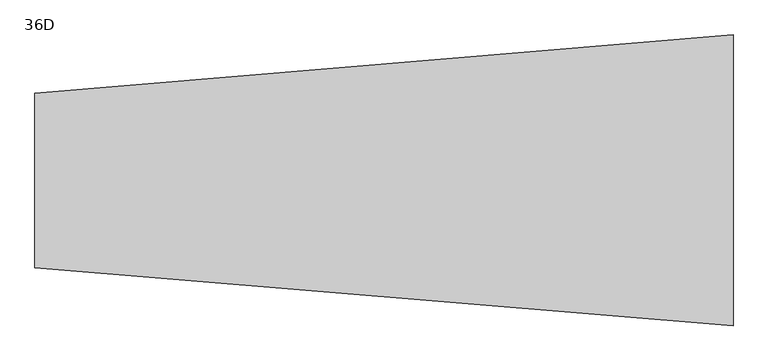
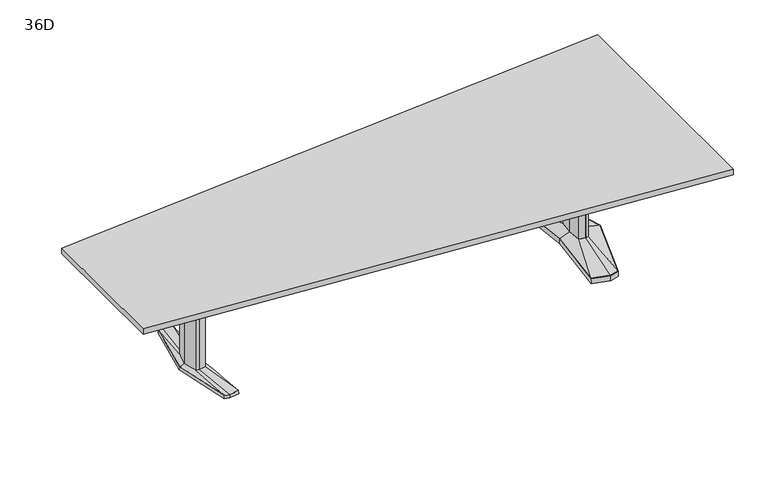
"""IFC4 building model written with IfcOpenShell, lengths in millimetres: furniture geometry, Coalesse_AM_Table_Conference_ETable2_Trapezoid_12ft_AluminiumBase : 36D."""

from ifc_helpers import new_model, si_unit, frame, origin, place, context, project, spatial, polyline, outline, extrude, faceted_brep, source, transform, mapped, element, save
from ifc_brep_helpers import plane_surface, spline_surface, advanced_brep


def furniture_36d_b59db664(model_context):
    return source(origin(), model_context, "Body", "SolidModel", [
        faceted_brep([(1210.6306835, 455.5848221, 38.1), (1101.0531277, 426.2263816, 38.1), (1142.2163717, 0.0, 38.1), (1101.0531277, -426.2263816, 38.1), (1210.6306835, -455.5848221, 38.1), (1266.7570396, -440.5478297, 38.1), (1404.0684269, 0.0, 38.1), (1266.7570396, 440.5478297, 38.1), (1210.6306754, 457.2283104, 3.175), (1268.0124472, 441.8549756, 3.175), (1405.73125, 0.0, 3.175), (1268.0124472, -441.8549756, 3.175), (1210.6306754, -457.2283104, 3.175), (1099.34375, -427.4118891, 3.175), (1140.6214856, 0.0, 3.175), (1099.34375, 427.4118891, 3.175), (1214.220115, 428.3273875, 3.175), (1109.1718228, 402.1057253, 3.175), (1117.290518, 377.985069, 3.175), (1217.8095466, 401.0699529, 3.175), (1268.3691725, 387.524361, 3.175), (1267.5631061, 414.0360954, 3.175), (1214.220115, -428.3273875, 3.175), (1267.5631061, -414.0360954, 3.175), (1268.3691725, -387.524361, 3.175), (1217.8095466, -401.0699529, 3.175), (1117.290518, -377.985069, 3.175), (1109.1718228, -402.1057253, 3.175), (1340.8153621, 0.0, 3.175), (1308.5459611, 120.4193755, 3.175), (1259.8987222, 133.471665, 3.175), (1180.0180526, 119.4176561, 3.175), (1168.8868466, 0.0, 3.175), (1180.0180526, -119.4176561, 3.175), (1259.8987222, -133.471665, 3.175), (1308.5459611, -120.4193755, 3.175), (1214.220115, 428.3273875, 0.0), (1267.5631061, 414.0360954, 0.0), (1268.3691725, 387.524361, 0.0), (1217.8095466, 401.0699529, 0.0), (1117.290518, 377.985069, 0.0), (1109.1718228, 402.1057253, 0.0), (1214.220115, -428.3273875, 0.0), (1109.1718228, -402.1057253, 0.0), (1117.290518, -377.985069, 0.0), (1217.8095466, -401.0699529, 0.0), (1268.3691725, -387.524361, 0.0), (1267.5631061, -414.0360954, 0.0), (1340.8153621, 0.0, 0.0), (1308.5459611, -120.4193755, 0.0), (1259.8987222, -133.471665, 0.0), (1180.0180526, -119.4176561, 0.0), (1168.8868466, 0.0, 0.0), (1180.0180526, 119.4176561, 0.0), (1259.8987222, 133.471665, 0.0), (1308.5459611, 120.4193755, 0.0)], [[[0, 1, 2, 3, 4, 5, 6, 7]], [[8, 9, 10, 11, 12, 13, 14, 15], [16, 17, 18, 19, 20, 21], [22, 23, 24, 25, 26, 27], [28, 29, 30, 31, 32, 33, 34, 35]], [[7, 9, 8, 0]], [[6, 10, 9, 7]], [[5, 11, 10, 6]], [[4, 12, 11, 5]], [[3, 13, 12, 4]], [[2, 14, 13, 3]], [[1, 15, 14, 2]], [[0, 8, 15, 1]], [[36, 37, 38, 39, 40, 41]], [[42, 43, 44, 45, 46, 47]], [[48, 49, 50, 51, 52, 53, 54, 55]], [[36, 16, 21, 37]], [[37, 21, 20, 38]], [[38, 20, 19, 39]], [[39, 19, 18, 40]], [[40, 18, 17, 41]], [[41, 17, 16, 36]], [[42, 22, 27, 43]], [[43, 27, 26, 44]], [[44, 26, 25, 45]], [[45, 25, 24, 46]], [[46, 24, 23, 47]], [[47, 23, 22, 42]], [[48, 28, 35, 49]], [[49, 35, 34, 50]], [[50, 34, 33, 51]], [[51, 33, 32, 52]], [[52, 32, 31, 53]], [[53, 31, 30, 54]], [[54, 30, 29, 55]], [[55, 29, 28, 48]]]),
        faceted_brep([(1301.3710836, 0.0, 698.5), (1277.4358546, 89.3188359, 698.5), (1260.5824984, 93.8406728, 698.5), (1258.1826511, 94.4845635, 698.5), (1215.255146, 86.9320037, 698.5), (1207.1520056, 0.0, 698.5), (1215.255146, -86.9320037, 698.5), (1258.1826511, -94.4845635, 698.5), (1260.5824984, -93.8406728, 698.5), (1277.4358546, -89.3188359, 698.5), (1301.3710836, 0.0, 63.5), (1277.4358546, -89.3188359, 63.5), (1260.5824984, -93.8406728, 63.5), (1258.1826511, -94.4845635, 63.5), (1215.255146, -86.9320037, 63.5), (1207.1520056, 0.0, 63.5), (1215.255146, 86.9320037, 63.5), (1258.1826511, 94.4845635, 63.5), (1260.5824984, 93.8406728, 63.5), (1277.4358546, 89.3188359, 63.5)], [[[0, 1, 2, 3, 4, 5, 6, 7, 8, 9]], [[10, 11, 12, 13, 14, 15, 16, 17, 18, 19]], [[9, 11, 10, 0]], [[8, 12, 11, 9]], [[7, 13, 12, 8]], [[6, 14, 13, 7]], [[5, 15, 14, 6]], [[4, 16, 15, 5]], [[3, 17, 16, 4]], [[2, 18, 17, 3]], [[1, 19, 18, 2]], [[0, 10, 19, 1]]]),
        advanced_brep(
        [(1258.1826511, 94.4845635, 63.5), (1215.255146, 86.9320037, 63.5), (1207.1520056, 0.0, 63.5), (1215.255146, -86.9320037, 63.5), (1258.1826511, -94.4845635, 63.5), (1277.4358546, -89.3188359, 63.5), (1301.3710836, 0.0, 63.5), (1277.4358546, 89.3188359, 63.5), (1210.6306835, 455.5848221, 38.1), (1266.7570396, 440.5478297, 38.1), (1404.0684269, 0.0, 38.1), (1266.7570396, -440.5478297, 38.1), (1210.6306835, -455.5848221, 38.1), (1101.0531277, -426.2263816, 38.1), (1142.2163717, 0.0, 38.1), (1101.0531277, 426.2263816, 38.1)],
        [
            (0, 1),
            (1, 2),
            (2, 3),
            (3, 4),
            (4, 5),
            (5, 6),
            (6, 7),
            (7, 0),
            (8, 9),
            (9, 10),
            (10, 11),
            (11, 12),
            (12, 13),
            (13, 14),
            (14, 15),
            (15, 8),
            (8, 0),
            (7, 9),
            (6, 10),
            (5, 11),
            (4, 12),
            (3, 13),
            (2, 14),
            (1, 15),
        ],
        [
            plane_surface(frame((1251.2837991, 0.0, 63.5), z_axis=(0.0, 0.0, 1.0), x_axis=(-0.25884244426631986, -0.9659195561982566, 0.0))),
            plane_surface(frame((1212.8958125, 0.0, 38.1), z_axis=(0.0, 0.0, -1.0), x_axis=(-0.25884244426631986, -0.9659195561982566, 0.0))),
            spline_surface(1, 1, [[(1210.6306835, 455.5848221, 38.1), (1266.7570396, 440.5478297, 38.1)], [(1258.1826511, 94.4845635, 63.5), (1277.4358546, 89.3188359, 63.5)]], [2, 2], [2, 2], [0.0, 1.0], [0.0, 1.0]),
            spline_surface(1, 1, [[(1266.7570396, 440.5478297, 38.1), (1404.0684269, 0.0, 38.1)], [(1277.4358546, 89.3188359, 63.5), (1301.3710836, 0.0, 63.5)]], [2, 2], [2, 2], [0.0, 1.0], [0.0, 1.0]),
            spline_surface(1, 1, [[(1404.0684269, 0.0, 38.1), (1266.7570396, -440.5478297, 38.1)], [(1301.3710836, 0.0, 63.5), (1277.4358546, -89.3188359, 63.5)]], [2, 2], [2, 2], [0.0, 1.0], [0.0, 1.0]),
            spline_surface(1, 1, [[(1266.7570396, -440.5478297, 38.1), (1210.6306835, -455.5848221, 38.1)], [(1277.4358546, -89.3188359, 63.5), (1258.1826511, -94.4845635, 63.5)]], [2, 2], [2, 2], [0.0, 1.0], [0.0, 1.0]),
            spline_surface(1, 1, [[(1210.6306835, -455.5848221, 38.1), (1101.0531277, -426.2263816, 38.1)], [(1258.1826511, -94.4845635, 63.5), (1215.255146, -86.9320037, 63.5)]], [2, 2], [2, 2], [0.0, 1.0], [0.0, 1.0]),
            spline_surface(1, 1, [[(1101.0531277, -426.2263816, 38.1), (1142.2163717, 0.0, 38.1)], [(1215.255146, -86.9320037, 63.5), (1207.1520056, 0.0, 63.5)]], [2, 2], [2, 2], [0.0, 1.0], [0.0, 1.0]),
            spline_surface(1, 1, [[(1142.2163717, 0.0, 38.1), (1101.0531277, 426.2263816, 38.1)], [(1207.1520056, 0.0, 63.5), (1215.255146, 86.9320037, 63.5)]], [2, 2], [2, 2], [0.0, 1.0], [0.0, 1.0]),
            spline_surface(1, 1, [[(1101.0531277, 426.2263816, 38.1), (1210.6306835, 455.5848221, 38.1)], [(1215.255146, 86.9320037, 63.5), (1258.1826511, 94.4845635, 63.5)]], [2, 2], [2, 2], [0.0, 1.0], [0.0, 1.0]),
        ],
        [
            (0, [[1, 2, 3, 4, 5, 6, 7, 8]]),
            (1, [[9, 10, 11, 12, 13, 14, 15, 16]]),
            (2, [[17, -8, 18, -9]]),
            (3, [[-18, -7, 19, -10]]),
            (4, [[-19, -6, 20, -11]]),
            (5, [[-20, -5, 21, -12]]),
            (6, [[-21, -4, 22, -13]]),
            (7, [[-22, -3, 23, -14]]),
            (8, [[-23, -2, 24, -15]]),
            (9, [[-24, -1, -17, -16]]),
        ],
    ),
        advanced_brep(
        [(-1222.0690971, -379.3768856, 25.4), (-1256.1982754, -94.605478, 36.5125), (-1275.4514743, -89.293702, 36.5125), (-1251.7944136, -371.5332654, 25.4), (-1158.9800038, -368.5071562, 25.4), (-1213.2708501, -87.0529327, 36.5125), (-1187.0577254, 0.3970149, 25.4), (-1205.1551707, 0.0, 36.5125), (-1158.9802502, 368.5172593, 25.4), (-1213.2708501, 87.0529327, 36.5125), (-1222.0689733, 379.3769183, 25.4), (-1256.1982754, 94.605478, 36.5125), (-1251.9722958, 371.4863276, 25.4), (-1275.4514743, 89.293702, 36.5125), (-1328.7039163, 0.0003516, 25.4), (-1299.3782751, 0.0, 36.5125), (-1185.4656242, 0.3968871, 3.175), (-1157.2875, -369.8264415, 3.175), (-1222.1400504, -381.0, 3.175), (-1253.1497317, -372.8174744, 3.175), (-1330.325, 0.0, 3.175), (-1253.3280745, 372.7704151, 3.175), (-1222.1400504, 381.0, 3.175), (-1157.2875, 369.8367279, 3.175), (-1256.8166764, 107.6121478, 3.175), (-1285.8370973, 99.6056872, 3.175), (-1312.5270585, 0.0, 3.175), (-1285.8370973, -99.6056872, 3.175), (-1256.8166764, -107.6121478, 3.175), (-1201.5252951, -97.8843184, 3.175), (-1192.3998387, 0.0, 3.175), (-1201.5252951, 97.8843184, 3.175), (-1220.6474312, 346.9152841, 3.175), (-1254.7732026, 337.9105158, 3.175), (-1255.8913109, 324.4807859, 3.175), (-1220.0788144, 333.9306305, 3.175), (-1167.4077418, 324.8641942, 3.175), (-1164.9998871, 337.3364985, 3.175), (-1220.6474312, -346.9152841, 3.175), (-1164.9998871, -337.3364985, 3.175), (-1167.4077418, -324.8641942, 3.175), (-1220.0788144, -333.9306305, 3.175), (-1255.8913109, -324.4807859, 3.175), (-1254.7732026, -337.9105158, 3.175), (-1256.8166764, 107.6121478, 0.0), (-1201.5252951, 97.8843184, 0.0), (-1192.3998387, 0.0, 0.0), (-1201.5252951, -97.8843184, 0.0), (-1256.8166764, -107.6121478, 0.0), (-1285.8370973, -99.6056872, 0.0), (-1312.5270585, 0.0, 0.0), (-1285.8370973, 99.6056872, 0.0), (-1220.6474312, 346.9152841, 0.0), (-1164.9998871, 337.3364985, 0.0), (-1167.4077418, 324.8641942, 0.0), (-1220.0788144, 333.9306305, 0.0), (-1255.8913109, 324.4807859, 0.0), (-1254.7732026, 337.9105158, 0.0), (-1220.6474312, -346.9152841, 0.0), (-1254.7732026, -337.9105158, 0.0), (-1255.8913109, -324.4807859, 0.0), (-1220.0788144, -333.9306305, 0.0), (-1167.4077418, -324.8641942, 0.0), (-1164.9998871, -337.3364985, 0.0), (-1275.4514743, 89.293702, 698.5), (-1299.3782751, 0.0, 698.5), (-1275.4514743, -89.293702, 698.5), (-1256.1982754, -94.605478, 698.5), (-1213.2708501, -87.0529327, 698.5), (-1205.1551707, 0.0, 698.5), (-1213.2708501, 87.0529327, 698.5), (-1256.1982754, 94.605478, 698.5)],
        [
            (0, 1),
            (1, 2),
            (2, 3),
            (3, 0),
            (0, 4),
            (4, 5),
            (5, 1),
            (4, 6),
            (6, 7),
            (7, 5),
            (6, 8),
            (8, 9),
            (9, 7),
            (8, 10),
            (10, 11),
            (11, 9),
            (10, 12),
            (12, 13),
            (13, 11),
            (12, 14),
            (14, 15),
            (15, 13),
            (2, 15),
            (14, 3),
            (16, 17),
            (17, 18),
            (18, 19),
            (19, 20),
            (20, 21),
            (21, 22),
            (22, 23),
            (23, 16),
            (24, 25),
            (25, 26),
            (26, 27),
            (27, 28),
            (28, 29),
            (29, 30),
            (30, 31),
            (31, 24),
            (32, 33),
            (33, 34),
            (34, 35),
            (35, 36),
            (36, 37),
            (37, 32),
            (38, 39),
            (39, 40),
            (40, 41),
            (41, 42),
            (42, 43),
            (43, 38),
            (23, 8),
            (6, 16),
            (22, 10),
            (21, 12),
            (20, 14),
            (19, 3),
            (18, 0),
            (17, 4),
            (44, 45),
            (45, 46),
            (46, 47),
            (47, 48),
            (48, 49),
            (49, 50),
            (50, 51),
            (51, 44),
            (52, 53),
            (53, 54),
            (54, 55),
            (55, 56),
            (56, 57),
            (57, 52),
            (58, 59),
            (59, 60),
            (60, 61),
            (61, 62),
            (62, 63),
            (63, 58),
            (51, 25),
            (24, 44),
            (50, 26),
            (49, 27),
            (48, 28),
            (47, 29),
            (46, 30),
            (45, 31),
            (57, 33),
            (32, 52),
            (56, 34),
            (55, 35),
            (54, 36),
            (53, 37),
            (63, 39),
            (38, 58),
            (62, 40),
            (61, 41),
            (60, 42),
            (59, 43),
            (64, 65),
            (65, 66),
            (66, 67),
            (67, 68),
            (68, 69),
            (69, 70),
            (70, 71),
            (71, 64),
            (64, 13),
            (15, 65),
            (2, 66),
            (1, 67),
            (5, 68),
            (7, 69),
            (9, 70),
            (11, 71),
        ],
        [
            spline_surface(1, 1, [[(-1251.7944136, -371.5332654, 25.4), (-1275.4514743, -89.293702, 36.5125)], [(-1222.0690971, -379.3768856, 25.4), (-1256.1982754, -94.605478, 36.5125)]], [2, 2], [2, 2], [0.0, 1.0], [0.0, 1.0]),
            spline_surface(1, 1, [[(-1222.0690971, -379.3768856, 25.4), (-1256.1982754, -94.605478, 36.5125)], [(-1158.9800038, -368.5071562, 25.4), (-1213.2708501, -87.0529327, 36.5125)]], [2, 2], [2, 2], [0.0, 1.0], [0.0, 1.0]),
            spline_surface(1, 1, [[(-1158.9800038, -368.5071562, 25.4), (-1213.2708501, -87.0529327, 36.5125)], [(-1187.0577254, 0.3970149, 25.4), (-1205.1551707, 0.0, 36.5125)]], [2, 2], [2, 2], [0.0, 1.0], [0.0, 1.0]),
            spline_surface(1, 1, [[(-1187.0577254, 0.3970149, 25.4), (-1205.1551707, 0.0, 36.5125)], [(-1158.9802502, 368.5172593, 25.4), (-1213.2708501, 87.0529327, 36.5125)]], [2, 2], [2, 2], [0.0, 1.0], [0.0, 1.0]),
            spline_surface(1, 1, [[(-1158.9802502, 368.5172593, 25.4), (-1213.2708501, 87.0529327, 36.5125)], [(-1222.0689733, 379.3769183, 25.4), (-1256.1982754, 94.605478, 36.5125)]], [2, 2], [2, 2], [0.0, 1.0], [0.0, 1.0]),
            spline_surface(1, 1, [[(-1222.0689733, 379.3769183, 25.4), (-1256.1982754, 94.605478, 36.5125)], [(-1251.9722958, 371.4863276, 25.4), (-1275.4514743, 89.293702, 36.5125)]], [2, 2], [2, 2], [0.0, 1.0], [0.0, 1.0]),
            spline_surface(1, 1, [[(-1251.9722958, 371.4863276, 25.4), (-1275.4514743, 89.293702, 36.5125)], [(-1328.7039163, 0.0003516, 25.4), (-1299.3782751, 0.0, 36.5125)]], [2, 2], [2, 2], [0.0, 1.0], [0.0, 1.0]),
            spline_surface(1, 1, [[(-1328.7039163, 0.0003516, 25.4), (-1299.3782751, 0.0, 36.5125)], [(-1251.7944136, -371.5332654, 25.4), (-1275.4514743, -89.293702, 36.5125)]], [2, 2], [2, 2], [0.0, 1.0], [0.0, 1.0]),
            plane_surface(frame((-1222.6404414, 0.0450143, 3.175), z_axis=(0.0, 0.0, -1.0), x_axis=(0.9669048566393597, -0.2551372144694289, 0.0))),
            plane_surface(frame((-1171.3765621, 185.1168075, 3.175), z_axis=(0.9945699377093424, -0.07585840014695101, 0.0712470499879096), x_axis=(0.07605167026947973, 0.9971038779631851, 0.0))),
            plane_surface(frame((-1189.7137752, 375.418364, 3.175), z_axis=(0.1692071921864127, 0.9830019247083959, 0.07124704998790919), x_axis=(-0.985506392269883, 0.16963829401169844, 0.0))),
            plane_surface(frame((-1237.7340624, 376.8852076, 3.175), z_axis=(-0.2544888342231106, 0.9644476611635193, 0.07124704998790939), x_axis=(-0.9669048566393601, -0.25513721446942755, 0.0))),
            plane_surface(frame((-1291.8265372, 186.3852076, 3.175), z_axis=(-0.9768383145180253, 0.2017690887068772, 0.07124704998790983), x_axis=(-0.20228315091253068, -0.9793270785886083, 0.0))),
            plane_surface(frame((-1291.7373658, -186.4087372, 3.175), z_axis=(-0.9767507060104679, -0.20219276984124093, 0.07124704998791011), x_axis=(0.2027079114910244, -0.9792392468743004, 0.0))),
            plane_surface(frame((-1237.644891, -376.9087372, 3.175), z_axis=(-0.2544888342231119, -0.9644476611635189, 0.0712470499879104), x_axis=(0.9669048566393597, -0.2551372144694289, 0.0))),
            plane_surface(frame((-1189.7137752, -375.4132207, 3.175), z_axis=(0.16935861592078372, -0.982975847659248, 0.07124704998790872), x_axis=(0.9854802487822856, 0.16979010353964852, 0.0))),
            plane_surface(frame((-1171.3765621, -184.7147772, 3.175), z_axis=(0.9945820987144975, 0.07569878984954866, 0.07124704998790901), x_axis=(-0.07589165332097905, 0.9971160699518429, 0.0))),
            plane_surface(frame((-1259.5758979, 106.8509046, 0.0), z_axis=(0.0, 0.0, -1.0000000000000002), x_axis=(0.9639855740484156, 0.26595453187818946, 0.0))),
            plane_surface(frame((-1256.8166764, 107.6121478, 3.175), z_axis=(-0.26595453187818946, 0.9639855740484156, 0.0), x_axis=(0.0, 0.0, -1.0))),
            plane_surface(frame((-1285.8370973, 99.6056872, 3.175), z_axis=(-0.9659241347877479, 0.2588253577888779, 0.0), x_axis=(0.0, 0.0, -1.0))),
            plane_surface(frame((-1312.5270585, 0.0, 3.175), z_axis=(-0.9659241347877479, -0.2588253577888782, 0.0), x_axis=(0.0, 0.0, -1.0))),
            plane_surface(frame((-1285.8370973, -99.6056872, 3.175), z_axis=(-0.26595453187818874, -0.9639855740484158, 0.0), x_axis=(0.0, 0.0, -1.0))),
            plane_surface(frame((-1256.8166764, -107.6121478, 3.175), z_axis=(0.17327617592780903, -0.9848732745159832, 0.0), x_axis=(0.0, 0.0, -1.0))),
            plane_surface(frame((-1201.5252951, -97.8843184, 3.175), z_axis=(0.9956824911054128, -0.0928244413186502, 0.0), x_axis=(0.0, 0.0, -1.0))),
            plane_surface(frame((-1192.3998387, 0.0, 3.175), z_axis=(0.9956824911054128, 0.09282444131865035, 0.0), x_axis=(0.0, 0.0, -1.0))),
            plane_surface(frame((-1201.5252951, 97.8843184, 3.175), z_axis=(0.17327617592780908, 0.984873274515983, 0.0), x_axis=(0.0, 0.0, -1.0))),
            plane_surface(frame((-1220.6474312, 346.9152841, 3.175), z_axis=(-0.25513721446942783, 0.9669048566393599, 0.0), x_axis=(0.0, 0.0, -1.0))),
            plane_surface(frame((-1254.7732026, 337.9105158, 3.175), z_axis=(-0.9965521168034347, 0.0829691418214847, 0.0), x_axis=(0.0, 0.0, -1.0))),
            plane_surface(frame((-1255.8913109, 324.4807859, 3.175), z_axis=(0.25513721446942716, -0.9669048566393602, 0.0), x_axis=(0.0, 0.0, -1.0))),
            plane_surface(frame((-1220.0788144, 333.9306305, 3.175), z_axis=(-0.16963829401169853, -0.985506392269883, 0.0), x_axis=(0.0, 0.0, -1.0))),
            plane_surface(frame((-1167.4077418, 324.8641942, 3.175), z_axis=(0.9818699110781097, -0.18955600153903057, 0.0), x_axis=(0.0, 0.0, -1.0))),
            plane_surface(frame((-1164.9998871, 337.3364985, 3.175), z_axis=(0.16963829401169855, 0.9855063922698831, 0.0), x_axis=(0.0, 0.0, -1.0))),
            plane_surface(frame((-1220.6474312, -346.9152841, 3.175), z_axis=(0.1696382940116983, -0.9855063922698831, 0.0), x_axis=(0.0, 0.0, -1.0))),
            plane_surface(frame((-1164.9998871, -337.3364985, 3.175), z_axis=(0.9818699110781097, 0.18955600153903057, 0.0), x_axis=(0.0, 0.0, -1.0))),
            plane_surface(frame((-1167.4077418, -324.8641942, 3.175), z_axis=(-0.16963829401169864, 0.985506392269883, 0.0), x_axis=(0.0, 0.0, -1.0))),
            plane_surface(frame((-1220.0788144, -333.9306305, 3.175), z_axis=(0.2551372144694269, 0.9669048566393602, 0.0), x_axis=(0.0, 0.0, -1.0))),
            plane_surface(frame((-1255.8913109, -324.4807859, 3.175), z_axis=(-0.9965521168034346, -0.0829691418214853, 0.0), x_axis=(0.0, 0.0, -1.0))),
            plane_surface(frame((-1254.7732026, -337.9105158, 3.175), z_axis=(-0.2551372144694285, -0.9669048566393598, 0.0), x_axis=(0.0, 0.0, -1.0))),
            plane_surface(frame((-1299.3782751, 0.0, 698.5), z_axis=(0.0, 0.0, 1.0), x_axis=(-0.25882535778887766, -0.965924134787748, 0.0))),
            plane_surface(frame((-1275.4514743, 89.293702, 698.5), z_axis=(-0.965924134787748, 0.25882535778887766, 0.0), x_axis=(0.0, 0.0, -1.0))),
            plane_surface(frame((-1299.3782751, 0.0, 698.5), z_axis=(-0.965924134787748, -0.2588253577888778, 0.0), x_axis=(0.0, 0.0, -1.0))),
            plane_surface(frame((-1275.4514743, -89.293702, 698.5), z_axis=(-0.2659545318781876, -0.963985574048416, 0.0), x_axis=(0.0, 0.0, -1.0))),
            plane_surface(frame((-1256.1982754, -94.605478, 698.5), z_axis=(0.1732761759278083, -0.9848732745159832, 0.0), x_axis=(0.0, 0.0, -1.0))),
            plane_surface(frame((-1213.2708501, -87.0529327, 698.5), z_axis=(0.9956824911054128, -0.0928244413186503, 0.0), x_axis=(0.0, 0.0, -1.0))),
            plane_surface(frame((-1205.1551707, 0.0, 698.5), z_axis=(0.9956824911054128, 0.09282444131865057, 0.0), x_axis=(0.0, 0.0, -1.0))),
            plane_surface(frame((-1213.2708501, 87.0529327, 698.5), z_axis=(0.17327617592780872, 0.9848732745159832, 0.0), x_axis=(0.0, 0.0, -1.0))),
            plane_surface(frame((-1256.1982754, 94.605478, 698.5), z_axis=(-0.26595453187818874, 0.9639855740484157, 0.0), x_axis=(0.0, 0.0, -1.0))),
        ],
        [
            (0, [[1, 2, 3, 4]]),
            (1, [[-1, 5, 6, 7]]),
            (2, [[-6, 8, 9, 10]]),
            (3, [[-9, 11, 12, 13]]),
            (4, [[-12, 14, 15, 16]]),
            (5, [[-15, 17, 18, 19]]),
            (6, [[-18, 20, 21, 22]]),
            (7, [[-3, 23, -21, 24]]),
            (8, [[25, 26, 27, 28, 29, 30, 31, 32], [33, 34, 35, 36, 37, 38, 39, 40], [41, 42, 43, 44, 45, 46], [47, 48, 49, 50, 51, 52]]),
            (9, [[-32, 53, -11, 54]]),
            (10, [[-31, 55, -14, -53]]),
            (11, [[-30, 56, -17, -55]]),
            (12, [[-29, 57, -20, -56]]),
            (13, [[-28, 58, -24, -57]]),
            (14, [[-27, 59, -4, -58]]),
            (15, [[-26, 60, -5, -59]]),
            (16, [[-25, -54, -8, -60]]),
            (17, [[61, 62, 63, 64, 65, 66, 67, 68]]),
            (17, [[69, 70, 71, 72, 73, 74]]),
            (17, [[75, 76, 77, 78, 79, 80]]),
            (18, [[-68, 81, -33, 82]]),
            (19, [[-67, 83, -34, -81]]),
            (20, [[-66, 84, -35, -83]]),
            (21, [[-65, 85, -36, -84]]),
            (22, [[-64, 86, -37, -85]]),
            (23, [[-63, 87, -38, -86]]),
            (24, [[-62, 88, -39, -87]]),
            (25, [[-61, -82, -40, -88]]),
            (26, [[-74, 89, -41, 90]]),
            (27, [[-73, 91, -42, -89]]),
            (28, [[-72, 92, -43, -91]]),
            (29, [[-71, 93, -44, -92]]),
            (30, [[-70, 94, -45, -93]]),
            (31, [[-69, -90, -46, -94]]),
            (32, [[-80, 95, -47, 96]]),
            (33, [[-79, 97, -48, -95]]),
            (34, [[-78, 98, -49, -97]]),
            (35, [[-77, 99, -50, -98]]),
            (36, [[-76, 100, -51, -99]]),
            (37, [[-75, -96, -52, -100]]),
            (38, [[101, 102, 103, 104, 105, 106, 107, 108]]),
            (39, [[-101, 109, -22, 110]]),
            (40, [[-102, -110, -23, 111]]),
            (41, [[-103, -111, -2, 112]]),
            (42, [[-104, -112, -7, 113]]),
            (43, [[-105, -113, -10, 114]]),
            (44, [[-106, -114, -13, 115]]),
            (45, [[-107, -115, -16, 116]]),
            (46, [[-108, -116, -19, -109]]),
        ],
    ),
        extrude(outline(polyline([(96.8375, 698.5), (103.1875, 698.5), (103.1875, 476.25), (-103.1875, 476.25), (-103.1875, 698.5), (-96.8375, 698.5), (-96.8375, 482.6), (96.8375, 482.6), (96.8375, 698.5)])), frame((-1204.9125, 0.0, 0.0), z_axis=(1.0, 0.0, 0.0), x_axis=(0.0, 1.0, 0.0)), (0.0, 0.0, 1.0), 2412.20625),
        extrude(outline(polyline([(1828.8, 762.0), (1828.8, -762.0), (-1828.8, -457.2), (-1828.8, 457.2), (1828.8, 762.0)])), frame((0.0, 0.0, 698.5), z_axis=(0.0, 0.0, 1.0), x_axis=(1.0, 0.0, 0.0)), (0.0, 0.0, 1.0), 38.1),
    ])


if __name__ == "__main__":
    model = new_model("IFC4")
    model_context = context("Model", 3, world=origin())
    ifc_project = project(units=[si_unit("LENGTHUNIT", "METRE", prefix="MILLI")], contexts=[model_context])
    site = spatial("IfcSite", under=ifc_project)
    building = spatial("IfcBuilding", under=site)
    placement = place(None, origin())
    furniture_36d_shape = furniture_36d_b59db664(model_context)
    element("IfcFurniture", 1, ObjectType="Coalesse_AM_Table_Conference_ETable2_Trapezoid_12ft_AluminiumBase : 36D", at=placement, inside=building, context=model_context, shape_type="MappedRepresentation", body=[
        mapped(furniture_36d_shape, transform((0.0, 0.0, 0.0), x_axis=(1.0, 0.0, 0.0), y_axis=(0.0, 1.0, 0.0), z_axis=(0.0, 0.0, 1.0))),
    ])
    save(model, "model.ifc")
